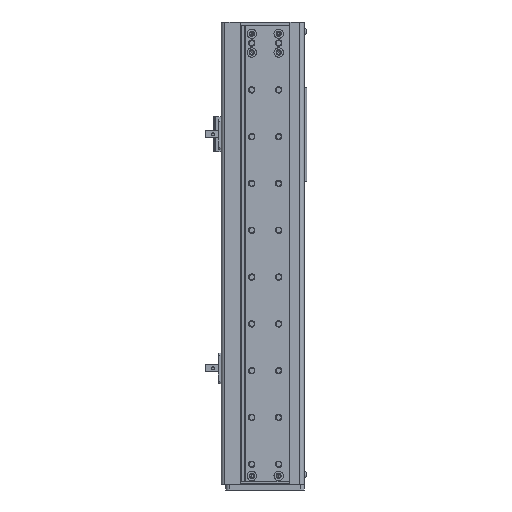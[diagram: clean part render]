
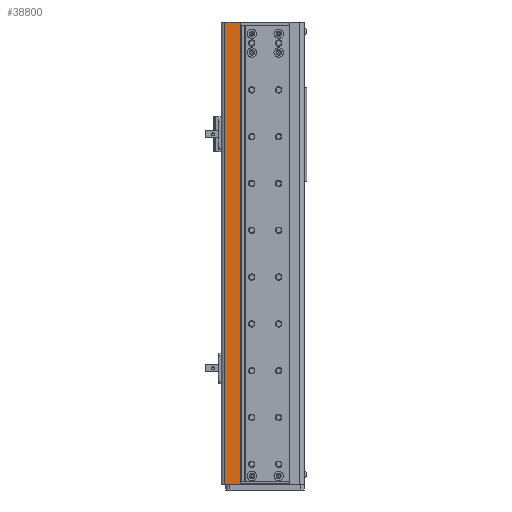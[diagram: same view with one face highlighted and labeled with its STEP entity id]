
A CAD part, front view. The second image highlights one B-rep face of the part: STEP entity #38800.
In plain terms, the highlighted planar face has unit normal (0, -1, 0).
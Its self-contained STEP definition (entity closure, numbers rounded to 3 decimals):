
#3415 = CARTESIAN_POINT ( 'NONE',  ( 12.3, 0., 395. ) ) ;
#5946 = DIRECTION ( 'NONE',  ( 1., 0., 0. ) ) ;
#6355 = EDGE_CURVE ( 'NONE', #19494, #21875, #15267, .T. ) ;
#6692 = CARTESIAN_POINT ( 'NONE',  ( 12.5, 0., 0. ) ) ;
#7528 = DIRECTION ( 'NONE',  ( 0., 0., 1. ) ) ;
#10000 = CARTESIAN_POINT ( 'NONE',  ( -1., 0., 395. ) ) ;
#10586 = VERTEX_POINT ( 'NONE', #46546 ) ;
#15267 = LINE ( 'NONE', #6692, #32031 ) ;
#15275 = CARTESIAN_POINT ( 'NONE',  ( -1., 0., 0. ) ) ;
#16000 = DIRECTION ( 'NONE',  ( -1., 0., 0. ) ) ;
#16018 = DIRECTION ( 'NONE',  ( 0., 1., 0. ) ) ;
#16067 = PLANE ( 'NONE',  #40426 ) ;
#17451 = CARTESIAN_POINT ( 'NONE',  ( 12.5, 0., 395. ) ) ;
#19494 = VERTEX_POINT ( 'NONE', #15275 ) ;
#20506 = CARTESIAN_POINT ( 'NONE',  ( 12.3, 0., 0. ) ) ;
#21082 = ORIENTED_EDGE ( 'NONE', *, *, #43698, .T. ) ;
#21875 = VERTEX_POINT ( 'NONE', #20506 ) ;
#21928 = FACE_OUTER_BOUND ( 'NONE', #28878, .T. ) ;
#23500 = VECTOR ( 'NONE', #7528, 1000. ) ;
#26010 = VECTOR ( 'NONE', #37179, 1000. ) ;
#28878 = EDGE_LOOP ( 'NONE', ( #48534, #37226, #34396, #21082 ) ) ;
#30638 = EDGE_CURVE ( 'NONE', #48767, #10586, #36919, .T. ) ;
#32031 = VECTOR ( 'NONE', #5946, 1000. ) ;
#33718 = LINE ( 'NONE', #3415, #23500 ) ;
#34122 = EDGE_CURVE ( 'NONE', #48767, #19494, #34888, .T. ) ;
#34396 = ORIENTED_EDGE ( 'NONE', *, *, #6355, .T. ) ;
#34888 = LINE ( 'NONE', #35787, #26010 ) ;
#35787 = CARTESIAN_POINT ( 'NONE',  ( -1., 0., 0. ) ) ;
#36919 = LINE ( 'NONE', #40927, #46576 ) ;
#37179 = DIRECTION ( 'NONE',  ( 0., 0., -1. ) ) ;
#37226 = ORIENTED_EDGE ( 'NONE', *, *, #34122, .T. ) ;
#38800 = ADVANCED_FACE ( 'NONE', ( #21928 ), #16067, .F. ) ;
#40426 = AXIS2_PLACEMENT_3D ( 'NONE', #17451, #16018, #16000 ) ;
#40875 = DIRECTION ( 'NONE',  ( 1., 0., 0. ) ) ;
#40927 = CARTESIAN_POINT ( 'NONE',  ( 12.5, 0., 395. ) ) ;
#43698 = EDGE_CURVE ( 'NONE', #21875, #10586, #33718, .T. ) ;
#46546 = CARTESIAN_POINT ( 'NONE',  ( 12.3, 0., 395. ) ) ;
#46576 = VECTOR ( 'NONE', #40875, 1000. ) ;
#48534 = ORIENTED_EDGE ( 'NONE', *, *, #30638, .F. ) ;
#48767 = VERTEX_POINT ( 'NONE', #10000 ) ;
